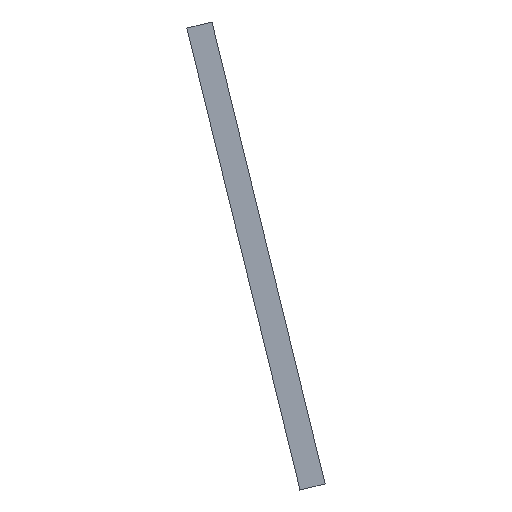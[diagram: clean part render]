
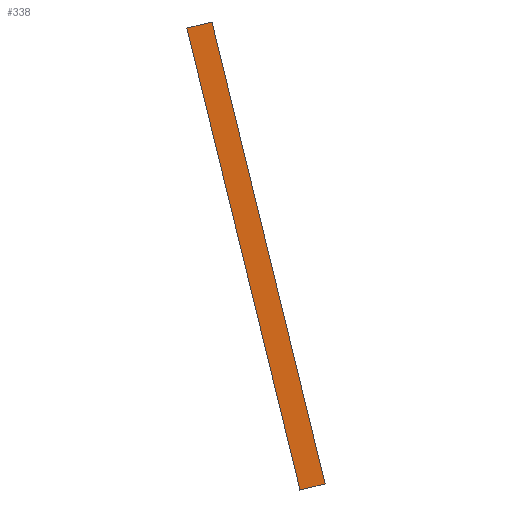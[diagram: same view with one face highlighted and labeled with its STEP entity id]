
A CAD part, top view. The second image highlights one B-rep face of the part: STEP entity #338.
In plain terms, the highlighted planar face has unit normal (0, 0, 1).
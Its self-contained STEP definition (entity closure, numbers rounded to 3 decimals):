
#24 = VERTEX_POINT('',#25);
#25 = CARTESIAN_POINT('',(178.885,-90.963,79.));
#32 = PLANE('',#33);
#33 = AXIS2_PLACEMENT_3D('',#34,#35,#36);
#34 = CARTESIAN_POINT('',(178.885,-90.963,76.));
#35 = DIRECTION('',(0.971,0.238,-0.));
#36 = DIRECTION('',(0.238,-0.971,0.));
#44 = PLANE('',#45);
#45 = AXIS2_PLACEMENT_3D('',#46,#47,#48);
#46 = CARTESIAN_POINT('',(171.115,-92.864,76.));
#47 = DIRECTION('',(-0.238,0.971,0.));
#48 = DIRECTION('',(0.971,0.238,0.));
#56 = EDGE_CURVE('',#24,#57,#59,.T.);
#57 = VERTEX_POINT('',#58);
#58 = CARTESIAN_POINT('',(213.885,-234.05,79.));
#59 = SURFACE_CURVE('',#60,(#64,#71),.PCURVE_S1.);
#60 = LINE('',#61,#62);
#61 = CARTESIAN_POINT('',(178.885,-90.963,79.));
#62 = VECTOR('',#63,1.);
#63 = DIRECTION('',(0.238,-0.971,0.));
#64 = PCURVE('',#32,#65);
#65 = DEFINITIONAL_REPRESENTATION('',(#66),#70);
#66 = LINE('',#67,#68);
#67 = CARTESIAN_POINT('',(0.,-3.));
#68 = VECTOR('',#69,1.);
#69 = DIRECTION('',(1.,0.));
#70 = ( GEOMETRIC_REPRESENTATION_CONTEXT(2) 
PARAMETRIC_REPRESENTATION_CONTEXT() REPRESENTATION_CONTEXT('2D SPACE',''
  ) );
#71 = PCURVE('',#72,#77);
#72 = PLANE('',#73);
#73 = AXIS2_PLACEMENT_3D('',#74,#75,#76);
#74 = CARTESIAN_POINT('',(192.5,-163.457,79.));
#75 = DIRECTION('',(-0.,-0.,-1.));
#76 = DIRECTION('',(-1.,0.,0.));
#77 = DEFINITIONAL_REPRESENTATION('',(#78),#82);
#78 = LINE('',#79,#80);
#79 = CARTESIAN_POINT('',(13.615,72.494));
#80 = VECTOR('',#81,1.);
#81 = DIRECTION('',(-0.238,-0.971));
#82 = ( GEOMETRIC_REPRESENTATION_CONTEXT(2) 
PARAMETRIC_REPRESENTATION_CONTEXT() REPRESENTATION_CONTEXT('2D SPACE',''
  ) );
#100 = PLANE('',#101);
#101 = AXIS2_PLACEMENT_3D('',#102,#103,#104);
#102 = CARTESIAN_POINT('',(213.885,-234.05,76.));
#103 = DIRECTION('',(0.238,-0.971,0.));
#104 = DIRECTION('',(-0.971,-0.238,0.));
#142 = EDGE_CURVE('',#57,#143,#145,.T.);
#143 = VERTEX_POINT('',#144);
#144 = CARTESIAN_POINT('',(206.115,-235.95,79.));
#145 = SURFACE_CURVE('',#146,(#150,#157),.PCURVE_S1.);
#146 = LINE('',#147,#148);
#147 = CARTESIAN_POINT('',(213.885,-234.05,79.));
#148 = VECTOR('',#149,1.);
#149 = DIRECTION('',(-0.971,-0.238,0.));
#150 = PCURVE('',#100,#151);
#151 = DEFINITIONAL_REPRESENTATION('',(#152),#156);
#152 = LINE('',#153,#154);
#153 = CARTESIAN_POINT('',(0.,-3.));
#154 = VECTOR('',#155,1.);
#155 = DIRECTION('',(1.,0.));
#156 = ( GEOMETRIC_REPRESENTATION_CONTEXT(2) 
PARAMETRIC_REPRESENTATION_CONTEXT() REPRESENTATION_CONTEXT('2D SPACE',''
  ) );
#157 = PCURVE('',#72,#158);
#158 = DEFINITIONAL_REPRESENTATION('',(#159),#163);
#159 = LINE('',#160,#161);
#160 = CARTESIAN_POINT('',(-21.385,-70.593));
#161 = VECTOR('',#162,1.);
#162 = DIRECTION('',(0.971,-0.238));
#163 = ( GEOMETRIC_REPRESENTATION_CONTEXT(2) 
PARAMETRIC_REPRESENTATION_CONTEXT() REPRESENTATION_CONTEXT('2D SPACE',''
  ) );
#181 = PLANE('',#182);
#182 = AXIS2_PLACEMENT_3D('',#183,#184,#185);
#183 = CARTESIAN_POINT('',(206.115,-235.95,76.));
#184 = DIRECTION('',(-0.971,-0.238,0.));
#185 = DIRECTION('',(-0.238,0.971,0.));
#218 = EDGE_CURVE('',#143,#219,#221,.T.);
#219 = VERTEX_POINT('',#220);
#220 = CARTESIAN_POINT('',(171.115,-92.864,79.));
#221 = SURFACE_CURVE('',#222,(#226,#233),.PCURVE_S1.);
#222 = LINE('',#223,#224);
#223 = CARTESIAN_POINT('',(206.115,-235.95,79.));
#224 = VECTOR('',#225,1.);
#225 = DIRECTION('',(-0.238,0.971,0.));
#226 = PCURVE('',#181,#227);
#227 = DEFINITIONAL_REPRESENTATION('',(#228),#232);
#228 = LINE('',#229,#230);
#229 = CARTESIAN_POINT('',(0.,-3.));
#230 = VECTOR('',#231,1.);
#231 = DIRECTION('',(1.,0.));
#232 = ( GEOMETRIC_REPRESENTATION_CONTEXT(2) 
PARAMETRIC_REPRESENTATION_CONTEXT() REPRESENTATION_CONTEXT('2D SPACE',''
  ) );
#233 = PCURVE('',#72,#234);
#234 = DEFINITIONAL_REPRESENTATION('',(#235),#239);
#235 = LINE('',#236,#237);
#236 = CARTESIAN_POINT('',(-13.615,-72.494));
#237 = VECTOR('',#238,1.);
#238 = DIRECTION('',(0.238,0.971));
#239 = ( GEOMETRIC_REPRESENTATION_CONTEXT(2) 
PARAMETRIC_REPRESENTATION_CONTEXT() REPRESENTATION_CONTEXT('2D SPACE',''
  ) );
#289 = EDGE_CURVE('',#219,#24,#290,.T.);
#290 = SURFACE_CURVE('',#291,(#295,#302),.PCURVE_S1.);
#291 = LINE('',#292,#293);
#292 = CARTESIAN_POINT('',(171.115,-92.864,79.));
#293 = VECTOR('',#294,1.);
#294 = DIRECTION('',(0.971,0.238,0.));
#295 = PCURVE('',#44,#296);
#296 = DEFINITIONAL_REPRESENTATION('',(#297),#301);
#297 = LINE('',#298,#299);
#298 = CARTESIAN_POINT('',(0.,-3.));
#299 = VECTOR('',#300,1.);
#300 = DIRECTION('',(1.,0.));
#301 = ( GEOMETRIC_REPRESENTATION_CONTEXT(2) 
PARAMETRIC_REPRESENTATION_CONTEXT() REPRESENTATION_CONTEXT('2D SPACE',''
  ) );
#302 = PCURVE('',#72,#303);
#303 = DEFINITIONAL_REPRESENTATION('',(#304),#308);
#304 = LINE('',#305,#306);
#305 = CARTESIAN_POINT('',(21.385,70.593));
#306 = VECTOR('',#307,1.);
#307 = DIRECTION('',(-0.971,0.238));
#308 = ( GEOMETRIC_REPRESENTATION_CONTEXT(2) 
PARAMETRIC_REPRESENTATION_CONTEXT() REPRESENTATION_CONTEXT('2D SPACE',''
  ) );
#338 = ADVANCED_FACE('',(#339),#72,.F.);
#339 = FACE_BOUND('',#340,.F.);
#340 = EDGE_LOOP('',(#341,#342,#343,#344));
#341 = ORIENTED_EDGE('',*,*,#56,.T.);
#342 = ORIENTED_EDGE('',*,*,#142,.T.);
#343 = ORIENTED_EDGE('',*,*,#218,.T.);
#344 = ORIENTED_EDGE('',*,*,#289,.T.);
